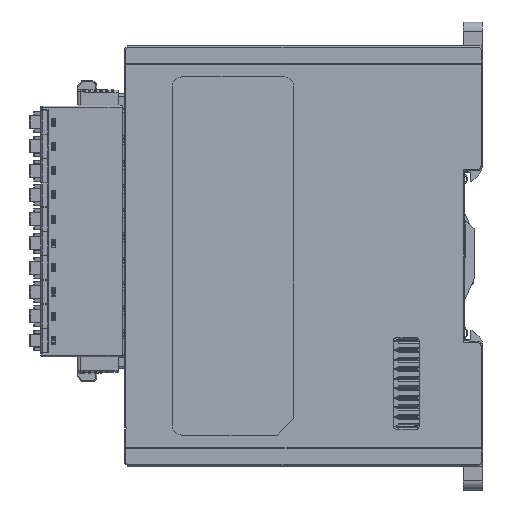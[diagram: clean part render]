
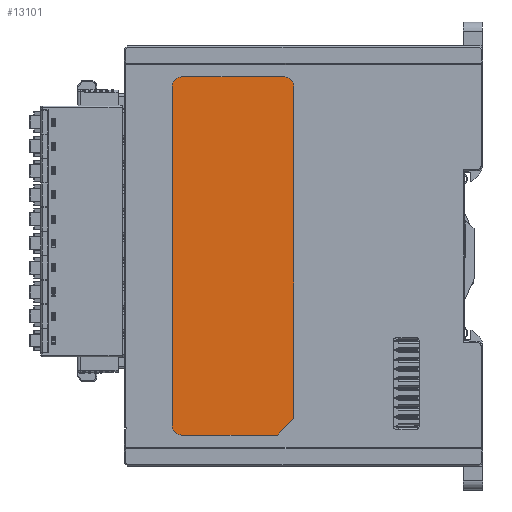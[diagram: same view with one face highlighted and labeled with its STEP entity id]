
A CAD part, left-side view. The second image highlights one B-rep face of the part: STEP entity #13101.
In plain terms, the highlighted planar face has unit normal (-1, 0, 0).
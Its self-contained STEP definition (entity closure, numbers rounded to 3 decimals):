
#4544=CARTESIAN_POINT('',(0.2,-12.,35.5));
#4545=DIRECTION('',(-1.,0.,0.));
#4546=DIRECTION('',(0.,0.,1.));
#4547=AXIS2_PLACEMENT_3D('',#4544,#4545,#4546);
#4562=CARTESIAN_POINT('',(0.2,-12.,-35.5));
#4563=DIRECTION('',(-1.,0.,0.));
#4564=DIRECTION('',(0.,1.,0.));
#4565=AXIS2_PLACEMENT_3D('',#4562,#4563,#4564);
#4567=DIRECTION('',(0.,0.,-1.));
#4568=VECTOR('',#4567,71.);
#4569=CARTESIAN_POINT('',(0.2,-10.,35.5));
#4570=LINE('',#4569,#4568);
#4571=DIRECTION('',(0.,1.,0.));
#4572=VECTOR('',#4571,21.5);
#4573=CARTESIAN_POINT('',(0.2,-33.5,37.5));
#4574=LINE('',#4573,#4572);
#4575=DIRECTION('',(0.,0.,1.));
#4576=VECTOR('',#4575,69.5);
#4577=CARTESIAN_POINT('',(0.2,-35.5,-34.));
#4578=LINE('',#4577,#4576);
#4579=DIRECTION('',(0.,-1.,0.));
#4580=VECTOR('',#4579,20.);
#4581=CARTESIAN_POINT('',(0.2,-12.,-37.5));
#4582=LINE('',#4581,#4580);
#4596=CARTESIAN_POINT('',(0.2,-33.5,35.5));
#4597=DIRECTION('',(-1.,0.,0.));
#4598=DIRECTION('',(0.,-1.,0.));
#4599=AXIS2_PLACEMENT_3D('',#4596,#4597,#4598);
#4613=DIRECTION('',(0.,0.707,-0.707));
#4614=VECTOR('',#4613,4.95);
#4615=CARTESIAN_POINT('',(0.2,-35.5,-34.));
#4616=LINE('',#4615,#4614);
#6924=CARTESIAN_POINT('',(0.2,-12.,-37.5));
#6926=VERTEX_POINT('',#6924);
#6928=CARTESIAN_POINT('',(0.2,-10.,-35.5));
#6930=VERTEX_POINT('',#6928);
#6932=CARTESIAN_POINT('',(0.2,-10.,35.5));
#6934=VERTEX_POINT('',#6932);
#6936=CARTESIAN_POINT('',(0.2,-12.,37.5));
#6938=VERTEX_POINT('',#6936);
#6940=CARTESIAN_POINT('',(0.2,-33.5,37.5));
#6942=VERTEX_POINT('',#6940);
#6944=CARTESIAN_POINT('',(0.2,-35.5,35.5));
#6946=VERTEX_POINT('',#6944);
#6948=CARTESIAN_POINT('',(0.2,-35.5,-34.));
#6950=VERTEX_POINT('',#6948);
#6952=CARTESIAN_POINT('',(0.2,-32.,-37.5));
#6954=VERTEX_POINT('',#6952);
#13083=CARTESIAN_POINT('',(0.2,0.,0.));
#13084=DIRECTION('',(-1.,0.,0.));
#13085=DIRECTION('',(0.,0.,1.));
#13086=AXIS2_PLACEMENT_3D('',#13083,#13084,#13085);
#13087=PLANE('',#13086);
#13088=ORIENTED_EDGE('',*,*,#13064,.F.);
#13089=ORIENTED_EDGE('',*,*,#13050,.F.);
#13090=ORIENTED_EDGE('',*,*,#13036,.F.);
#13091=ORIENTED_EDGE('',*,*,#13022,.F.);
#13093=ORIENTED_EDGE('',*,*,#13092,.F.);
#13095=ORIENTED_EDGE('',*,*,#13094,.F.);
#13097=ORIENTED_EDGE('',*,*,#13096,.T.);
#13098=ORIENTED_EDGE('',*,*,#13075,.F.);
#13099=EDGE_LOOP('',(#13088,#13089,#13090,#13091,#13093,#13095,#13097,#13098));
#13100=FACE_OUTER_BOUND('',#13099,.F.);
#13101=ADVANCED_FACE('',(#13100),#13087,.T.);
#4548=CIRCLE('',#4547,2.);
#4566=CIRCLE('',#4565,2.);
#4600=CIRCLE('',#4599,2.);
#13022=EDGE_CURVE('',#6942,#6938,#4574,.T.);
#13036=EDGE_CURVE('',#6938,#6934,#4548,.T.);
#13050=EDGE_CURVE('',#6934,#6930,#4570,.T.);
#13064=EDGE_CURVE('',#6930,#6926,#4566,.T.);
#13075=EDGE_CURVE('',#6926,#6954,#4582,.T.);
#13092=EDGE_CURVE('',#6946,#6942,#4600,.T.);
#13094=EDGE_CURVE('',#6950,#6946,#4578,.T.);
#13096=EDGE_CURVE('',#6950,#6954,#4616,.T.);
